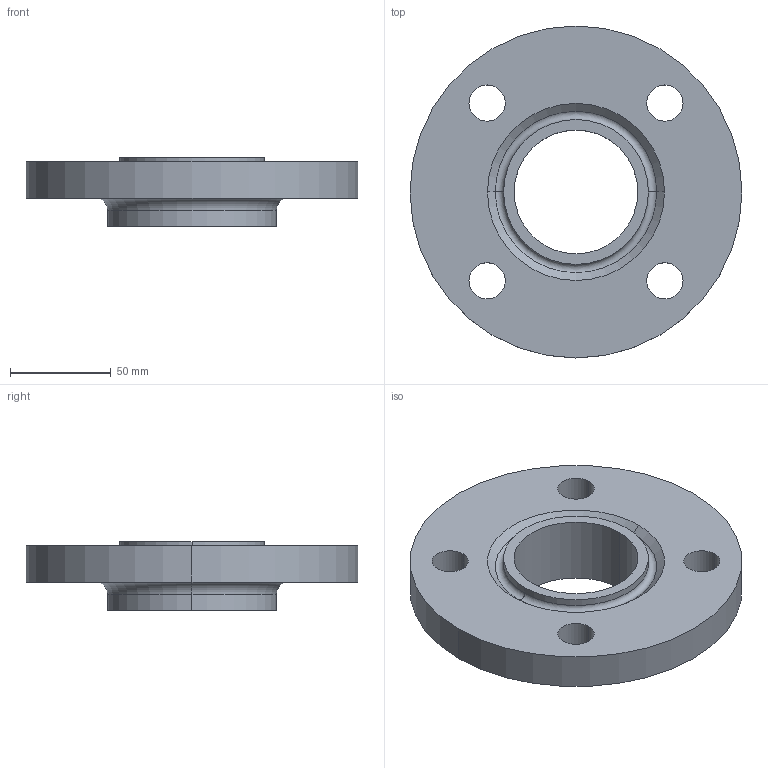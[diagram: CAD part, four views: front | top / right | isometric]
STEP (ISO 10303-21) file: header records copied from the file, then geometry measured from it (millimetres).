
FILE_DESCRIPTION (( 'STEP AP214' ), '1' );
FILE_NAME ('PN40 DN50 Type 12 - Type H Face.STEP', '2018-12-30T04:32:27', ( '' ), ( '' ), 'SwSTEP 2.0', 'SolidWorks 2019', '' );
FILE_SCHEMA (( 'AUTOMOTIVE_DESIGN' ));
Length unit declared in the file: millimetre
Products named in the file (1): PN40 DN50 Type 12 - Type H Face
Bounding box: 165 x 165 x 34 mm (x, y, z)
Volume: 348119.3 mm3; surface area: 59281.6 mm2
Topology: 1 solids, 1 shells, 26 faces, 60 edges, 38 vertices
Faces by surface type: cylinder 16, torus 4, plane 4, cone 2
Entity records: 812 total; most frequent: DIRECTION 156, CARTESIAN_POINT 125, ORIENTED_EDGE 120, AXIS2_PLACEMENT_3D 69, EDGE_CURVE 60, CIRCLE 42, VERTEX_POINT 38, EDGE_LOOP 38
